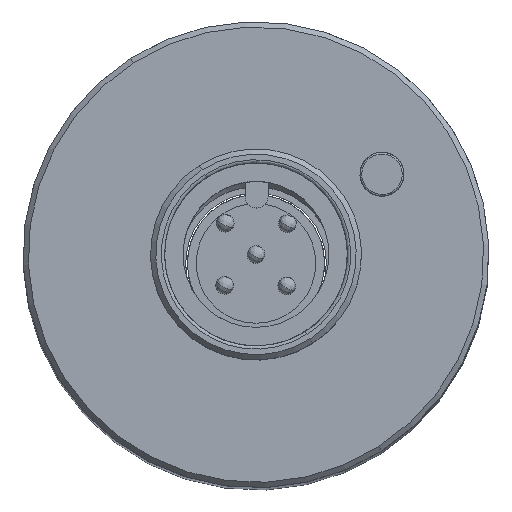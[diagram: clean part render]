
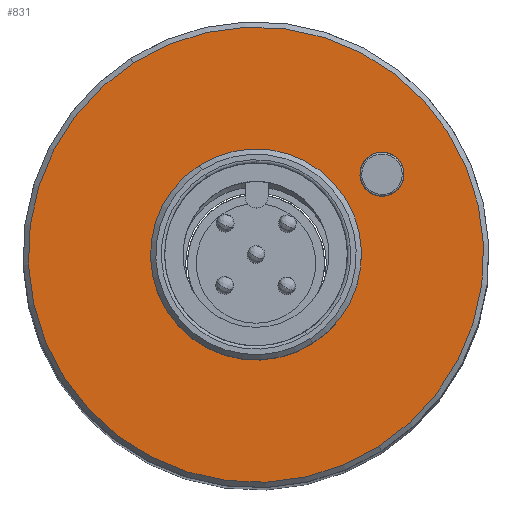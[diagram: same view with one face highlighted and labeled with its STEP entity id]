
A CAD part, top view. The second image highlights one B-rep face of the part: STEP entity #831.
In plain terms, the highlighted planar face has unit normal (0, 0, 1).
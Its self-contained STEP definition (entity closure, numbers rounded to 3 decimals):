
#98 = ORIENTED_EDGE ( 'NONE', *, *, #3807, .F. ) ;
#157 = CIRCLE ( 'NONE', #1594, 1.25 ) ;
#196 = DIRECTION ( 'NONE',  ( -0.539, 0.843, 0. ) ) ;
#206 = DIRECTION ( 'NONE',  ( 0., 0., 1. ) ) ;
#224 = CARTESIAN_POINT ( 'NONE',  ( 6.975, -10.911, 283.2 ) ) ;
#292 = AXIS2_PLACEMENT_3D ( 'NONE', #2010, #206, #2652 ) ;
#367 = CARTESIAN_POINT ( 'NONE',  ( 7.162, 4.578, 283.2 ) ) ;
#567 = FACE_OUTER_BOUND ( 'NONE', #4442, .T. ) ;
#674 = EDGE_LOOP ( 'NONE', ( #3840, #98 ) ) ;
#717 = DIRECTION ( 'NONE',  ( 0., 0., -1. ) ) ;
#724 = CARTESIAN_POINT ( 'NONE',  ( 0., 0., 283.2 ) ) ;
#736 = CARTESIAN_POINT ( 'NONE',  ( 7.835, 3.525, 283.2 ) ) ;
#807 = VERTEX_POINT ( 'NONE', #2979 ) ;
#828 = CIRCLE ( 'NONE', #1656, 5.65 ) ;
#831 = ADVANCED_FACE ( 'NONE', ( #567, #3832, #1194 ), #1249, .T. ) ;
#949 = CARTESIAN_POINT ( 'NONE',  ( 0., 0., 283.2 ) ) ;
#980 = DIRECTION ( 'NONE',  ( 0., 0., -1. ) ) ;
#992 = AXIS2_PLACEMENT_3D ( 'NONE', #3460, #1209, #196 ) ;
#1136 = ORIENTED_EDGE ( 'NONE', *, *, #2639, .T. ) ;
#1137 = CARTESIAN_POINT ( 'NONE',  ( 7.162, 4.578, 283.2 ) ) ;
#1194 = FACE_BOUND ( 'NONE', #2928, .T. ) ;
#1209 = DIRECTION ( 'NONE',  ( 0., 0., 1. ) ) ;
#1249 = PLANE ( 'NONE',  #292 ) ;
#1317 = EDGE_CURVE ( 'NONE', #1557, #4069, #3497, .T. ) ;
#1531 = DIRECTION ( 'NONE',  ( -0.539, 0.843, 0. ) ) ;
#1557 = VERTEX_POINT ( 'NONE', #2117 ) ;
#1583 = ORIENTED_EDGE ( 'NONE', *, *, #1317, .T. ) ;
#1590 = CIRCLE ( 'NONE', #2044, 5.65 ) ;
#1594 = AXIS2_PLACEMENT_3D ( 'NONE', #1137, #2613, #2935 ) ;
#1656 = AXIS2_PLACEMENT_3D ( 'NONE', #724, #980, #1531 ) ;
#1663 = DIRECTION ( 'NONE',  ( -0.539, 0.843, 0. ) ) ;
#1811 = DIRECTION ( 'NONE',  ( -0.539, 0.843, 0. ) ) ;
#1828 = DIRECTION ( 'NONE',  ( -0.539, 0.843, 0. ) ) ;
#1941 = EDGE_CURVE ( 'NONE', #3899, #3071, #1590, .T. ) ;
#2000 = DIRECTION ( 'NONE',  ( 0., 0., 1. ) ) ;
#2010 = CARTESIAN_POINT ( 'NONE',  ( -4.423, -2.828, 283.2 ) ) ;
#2044 = AXIS2_PLACEMENT_3D ( 'NONE', #2158, #717, #1828 ) ;
#2117 = CARTESIAN_POINT ( 'NONE',  ( -6.975, 10.911, 283.2 ) ) ;
#2158 = CARTESIAN_POINT ( 'NONE',  ( 0., 0., 283.2 ) ) ;
#2226 = ORIENTED_EDGE ( 'NONE', *, *, #4441, .T. ) ;
#2613 = DIRECTION ( 'NONE',  ( 0., 0., 1. ) ) ;
#2639 = EDGE_CURVE ( 'NONE', #3071, #3899, #828, .T. ) ;
#2652 = DIRECTION ( 'NONE',  ( -0.539, 0.843, 0. ) ) ;
#2750 = ORIENTED_EDGE ( 'NONE', *, *, #1941, .T. ) ;
#2928 = EDGE_LOOP ( 'NONE', ( #1136, #2750 ) ) ;
#2935 = DIRECTION ( 'NONE',  ( -0.539, 0.843, 0. ) ) ;
#2979 = CARTESIAN_POINT ( 'NONE',  ( 6.489, 5.631, 283.2 ) ) ;
#3060 = CIRCLE ( 'NONE', #992, 12.95 ) ;
#3071 = VERTEX_POINT ( 'NONE', #3981 ) ;
#3101 = EDGE_CURVE ( 'NONE', #807, #4670, #157, .T. ) ;
#3361 = AXIS2_PLACEMENT_3D ( 'NONE', #367, #3589, #1811 ) ;
#3460 = CARTESIAN_POINT ( 'NONE',  ( 0., 0., 283.2 ) ) ;
#3493 = AXIS2_PLACEMENT_3D ( 'NONE', #949, #2000, #1663 ) ;
#3497 = CIRCLE ( 'NONE', #3493, 12.95 ) ;
#3589 = DIRECTION ( 'NONE',  ( 0., 0., 1. ) ) ;
#3807 = EDGE_CURVE ( 'NONE', #4670, #807, #4195, .T. ) ;
#3832 = FACE_BOUND ( 'NONE', #674, .T. ) ;
#3840 = ORIENTED_EDGE ( 'NONE', *, *, #3101, .F. ) ;
#3899 = VERTEX_POINT ( 'NONE', #4457 ) ;
#3981 = CARTESIAN_POINT ( 'NONE',  ( -3.043, 4.761, 283.2 ) ) ;
#4069 = VERTEX_POINT ( 'NONE', #224 ) ;
#4195 = CIRCLE ( 'NONE', #3361, 1.25 ) ;
#4441 = EDGE_CURVE ( 'NONE', #4069, #1557, #3060, .T. ) ;
#4442 = EDGE_LOOP ( 'NONE', ( #2226, #1583 ) ) ;
#4457 = CARTESIAN_POINT ( 'NONE',  ( 3.043, -4.761, 283.2 ) ) ;
#4670 = VERTEX_POINT ( 'NONE', #736 ) ;
